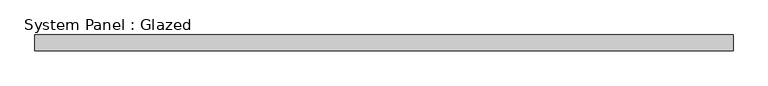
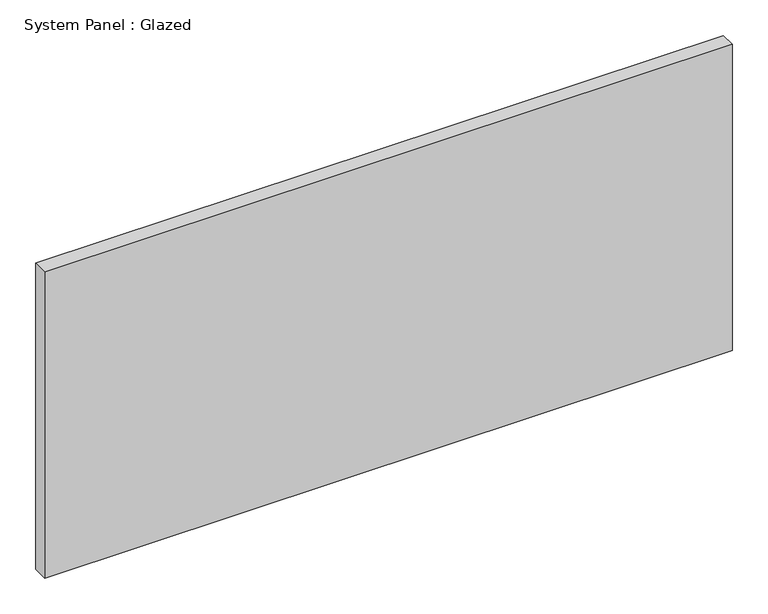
"""IFC4 building model written with IfcOpenShell, lengths in millimetres: plate geometry, System Panel : Glazed."""

from ifc_helpers import new_model, si_unit, origin, origin_with_axes, place, context, project, spatial, polyline, outline, extrude, source, transform, mapped, element, save


def system_panel_glazed_8493d7a6(model_context):
    return source(origin(), model_context, "Body", "SweptSolid", [
        extrude(outline(polyline([(557.5, 24.5), (-557.5, 24.5), (-557.5, 49.5), (557.5, 49.5), (557.5, 24.5)])), origin_with_axes(), (0.0, 0.0, 1.0), 525.0),
    ])


if __name__ == "__main__":
    model = new_model("IFC4")
    model_context = context("Model", 3, world=origin())
    ifc_project = project(units=[si_unit("LENGTHUNIT", "METRE", prefix="MILLI")], contexts=[model_context])
    site = spatial("IfcSite", under=ifc_project)
    building = spatial("IfcBuilding", under=site)
    placement = place(None, origin())
    system_panel_glazed_shape = system_panel_glazed_8493d7a6(model_context)
    element("IfcPlate", 1, ObjectType="System Panel : Glazed", at=placement, inside=building, context=model_context, shape_type="MappedRepresentation", body=[
        mapped(system_panel_glazed_shape, transform((0.0, 0.0, 0.0), x_axis=(1.0, 0.0, 0.0), y_axis=(0.0, 1.0, 0.0), z_axis=(0.0, 0.0, 1.0))),
    ])
    save(model, "model.ifc")
